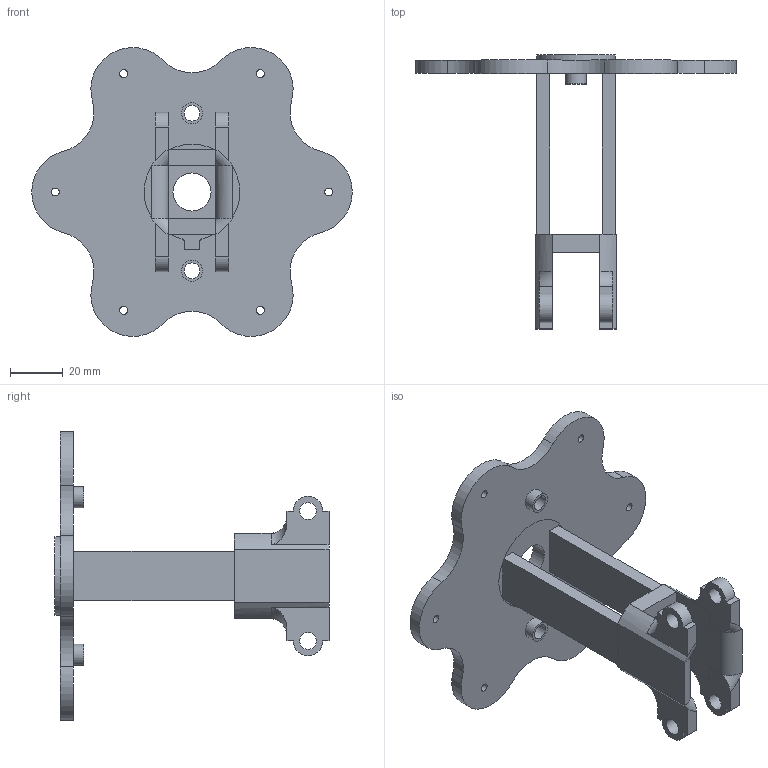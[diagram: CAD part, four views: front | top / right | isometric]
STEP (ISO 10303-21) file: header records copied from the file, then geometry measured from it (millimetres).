
FILE_DESCRIPTION(/* description */ ('STEP AP242 Edition 2','CAx-IF Rec.Pracs.---Representation and Presentation of Product Manufacturing Information (PMI)---4.0---2014-10-13','CAx-IF Rec.Pracs.---3D Tessellated Geometry---0.4---2014-09-14','2;1','CAx-IF Rec.Pracs.---User Defined Attributes---1.5---2016-08-15'),/* implementation_level */ '2;1');
FILE_NAME(/* name */ 'Assembly 1 - Part 11',/* time_stamp */ '2026-08-25T12:51:59Z',/* author */ (''),/* organization */ (''),/* preprocessor_version */ 'ST-DEVELOPER v20',/* originating_system */ 'ONSHAPE BY PTC INC, 1.219',/* authorisation */ ' ');
FILE_SCHEMA (('AP242_MANAGED_MODEL_BASED_3D_ENGINEERING_MIM_LF { 1 0 10303 442 3 1 4 }'));
Length unit declared in the file: metre
Products named in the file (1): Part 11
Bounding box: 122 x 104.3 x 109.93 mm (x, y, z)
Volume: 73977.1 mm3; surface area: 35500.1 mm2
Topology: 1 solids, 1 shells, 125 faces, 348 edges, 230 vertices
Faces by surface type: plane 62, cylinder 53, torus 8, bspline 2
Full cylindrical faces by diameter (mm): 3 x6, 6 x2, 6.4 x4, 8 x2, 14.5 x1, 30 x1
Entity records: 4116 total; most frequent: CARTESIAN_POINT 907, ORIENTED_EDGE 650, DIRECTION 646, EDGE_CURVE 325, AXIS2_PLACEMENT_3D 234, VERTEX_POINT 223, LINE 178, VECTOR 178
